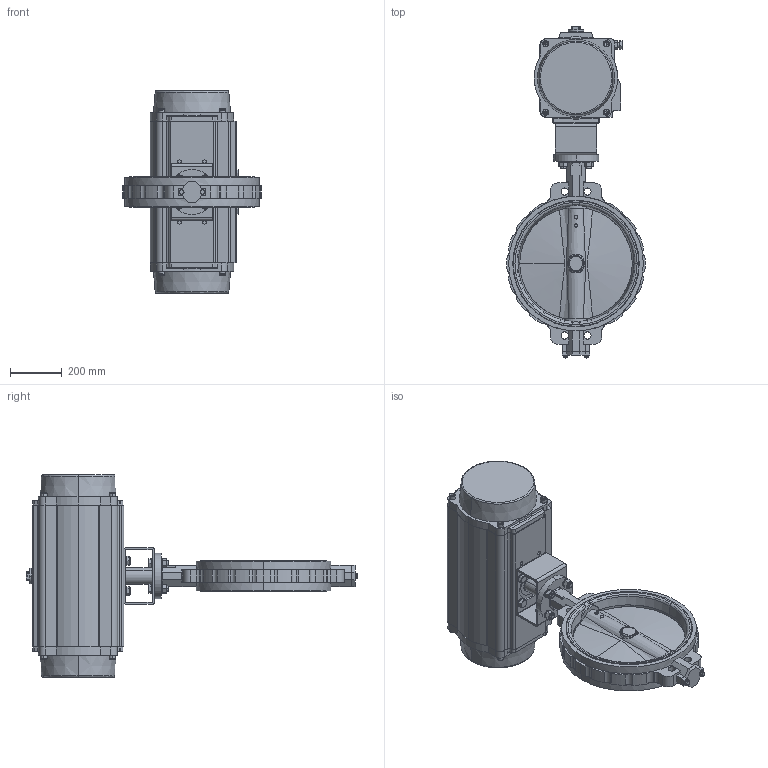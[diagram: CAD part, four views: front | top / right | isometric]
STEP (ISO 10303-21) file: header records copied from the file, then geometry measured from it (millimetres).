
FILE_DESCRIPTION (( 'STEP AP214' ), '1' );
FILE_NAME ('VPE440X-N07XX0450.STEP', '2020-09-04T07:19:09', ( '' ), ( '' ), 'SwSTEP 2.0', 'SolidWorks 2017', '' );
FILE_SCHEMA (( 'AUTOMOTIVE_DESIGN' ));
Length unit declared in the file: millimetre
Products named in the file (1): VPE440X-N07XX0450
Bounding box: 536.83 x 1287 x 784 mm (x, y, z)
Surface area: 2610110.7 mm2 (no closed solid volume)
Topology: 0 solids, 79 shells, 830 faces, 2466 edges, 1682 vertices
Faces by surface type: plane 334, cylinder 278, cone 150, torus 40, bspline 28
Entity records: 42955 total; most frequent: CARTESIAN_POINT 12223, DIRECTION 4543, ORIENTED_EDGE 4068, EDGE_CURVE 2450, AXIS2_PLACEMENT_3D 1748, VERTEX_POINT 1682, LINE 1047, VECTOR 1047
